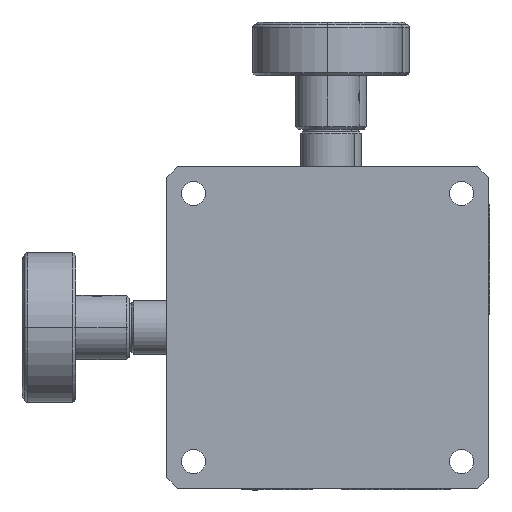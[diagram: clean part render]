
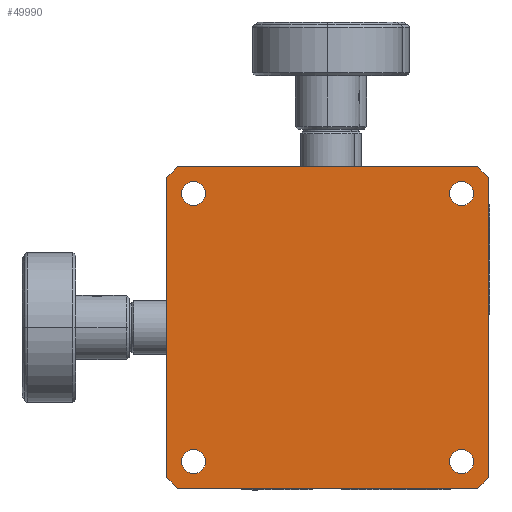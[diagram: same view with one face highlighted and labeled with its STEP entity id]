
A CAD part, front view. The second image highlights one B-rep face of the part: STEP entity #49990.
In plain terms, the highlighted planar face has unit normal (0, -1, 0).
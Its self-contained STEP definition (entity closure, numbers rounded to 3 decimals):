
#1990 = VERTEX_POINT ( 'NONE', #86994 ) ;
#2194 = VERTEX_POINT ( 'NONE', #49431 ) ;
#4048 = CIRCLE ( 'NONE', #19977, 2.25 ) ;
#4122 = AXIS2_PLACEMENT_3D ( 'NONE', #13533, #64603, #20899 ) ;
#4326 = CARTESIAN_POINT ( 'NONE',  ( -30., 0., -28. ) ) ;
#5201 = EDGE_LOOP ( 'NONE', ( #70478, #70572 ) ) ;
#7090 = CARTESIAN_POINT ( 'NONE',  ( -28., 0., -30. ) ) ;
#7735 = AXIS2_PLACEMENT_3D ( 'NONE', #69479, #25768, #76801 ) ;
#7941 = CARTESIAN_POINT ( 'NONE',  ( 25., 0., 25. ) ) ;
#8030 = CARTESIAN_POINT ( 'NONE',  ( -22.75, 0., -25. ) ) ;
#8427 = CARTESIAN_POINT ( 'NONE',  ( 30., 0., -28. ) ) ;
#8821 = DIRECTION ( 'NONE',  ( 0., 1., 0. ) ) ;
#8969 = VECTOR ( 'NONE', #78379, 1000. ) ;
#8997 = CARTESIAN_POINT ( 'NONE',  ( -30., 0., 30. ) ) ;
#9959 = VERTEX_POINT ( 'NONE', #43223 ) ;
#9996 = CARTESIAN_POINT ( 'NONE',  ( 22.75, 0., -25. ) ) ;
#12033 = CARTESIAN_POINT ( 'NONE',  ( -30., 0., 30. ) ) ;
#12552 = CARTESIAN_POINT ( 'NONE',  ( 25., 0., -25. ) ) ;
#13533 = CARTESIAN_POINT ( 'NONE',  ( -25., 0., -25. ) ) ;
#14146 = FACE_BOUND ( 'NONE', #25014, .T. ) ;
#14556 = CARTESIAN_POINT ( 'NONE',  ( 30., 0., 30. ) ) ;
#14868 = DIRECTION ( 'NONE',  ( 0.707, 0., -0.707 ) ) ;
#15183 = EDGE_CURVE ( 'NONE', #2194, #83386, #23319, .T. ) ;
#15314 = DIRECTION ( 'NONE',  ( 1., 0., 0. ) ) ;
#15667 = EDGE_CURVE ( 'NONE', #74284, #30855, #40330, .T. ) ;
#16582 = AXIS2_PLACEMENT_3D ( 'NONE', #52632, #8821, #59952 ) ;
#17852 = EDGE_LOOP ( 'NONE', ( #54463, #69411, #50611, #32051, #61676, #32156, #25498, #85764 ) ) ;
#18816 = EDGE_CURVE ( 'NONE', #75538, #94013, #28401, .T. ) ;
#19050 = EDGE_CURVE ( 'NONE', #9959, #60823, #53577, .T. ) ;
#19228 = CIRCLE ( 'NONE', #44285, 2.25 ) ;
#19521 = VECTOR ( 'NONE', #25317, 1000. ) ;
#19767 = ORIENTED_EDGE ( 'NONE', *, *, #58546, .T. ) ;
#19904 = DIRECTION ( 'NONE',  ( 1., 0., 0. ) ) ;
#19977 = AXIS2_PLACEMENT_3D ( 'NONE', #12552, #63638, #19904 ) ;
#20813 = CARTESIAN_POINT ( 'NONE',  ( 27.25, 0., -25. ) ) ;
#20868 = CIRCLE ( 'NONE', #4122, 2.25 ) ;
#20899 = DIRECTION ( 'NONE',  ( 1., 0., 0. ) ) ;
#21807 = LINE ( 'NONE', #47032, #19521 ) ;
#23091 = DIRECTION ( 'NONE',  ( -0.707, 0., 0.707 ) ) ;
#23319 = CIRCLE ( 'NONE', #93557, 2.25 ) ;
#23320 = ORIENTED_EDGE ( 'NONE', *, *, #79546, .T. ) ;
#23743 = PLANE ( 'NONE',  #29107 ) ;
#25014 = EDGE_LOOP ( 'NONE', ( #19767, #49616 ) ) ;
#25317 = DIRECTION ( 'NONE',  ( 0., 0., -1. ) ) ;
#25498 = ORIENTED_EDGE ( 'NONE', *, *, #38323, .F. ) ;
#25768 = DIRECTION ( 'NONE',  ( 0., 1., 0. ) ) ;
#25973 = CIRCLE ( 'NONE', #7735, 2.25 ) ;
#26261 = AXIS2_PLACEMENT_3D ( 'NONE', #30121, #29997, #29976 ) ;
#26329 = VECTOR ( 'NONE', #23091, 1000. ) ;
#26399 = CARTESIAN_POINT ( 'NONE',  ( 30., 0., 28. ) ) ;
#26954 = DIRECTION ( 'NONE',  ( 0., 1., 0. ) ) ;
#28401 = LINE ( 'NONE', #77714, #8969 ) ;
#29107 = AXIS2_PLACEMENT_3D ( 'NONE', #8997, #74777, #31020 ) ;
#29650 = EDGE_CURVE ( 'NONE', #52812, #76749, #33013, .T. ) ;
#29976 = DIRECTION ( 'NONE',  ( 1., 0., 0. ) ) ;
#29997 = DIRECTION ( 'NONE',  ( 0., 1., 0. ) ) ;
#30121 = CARTESIAN_POINT ( 'NONE',  ( -25., 0., 25. ) ) ;
#30727 = CARTESIAN_POINT ( 'NONE',  ( 27.25, 0., 25. ) ) ;
#30855 = VERTEX_POINT ( 'NONE', #91987 ) ;
#31020 = DIRECTION ( 'NONE',  ( -1., 0., 0. ) ) ;
#31086 = LINE ( 'NONE', #14556, #72230 ) ;
#31218 = FACE_BOUND ( 'NONE', #5201, .T. ) ;
#32051 = ORIENTED_EDGE ( 'NONE', *, *, #52023, .T. ) ;
#32156 = ORIENTED_EDGE ( 'NONE', *, *, #79085, .T. ) ;
#33013 = CIRCLE ( 'NONE', #16582, 2.25 ) ;
#34368 = VECTOR ( 'NONE', #14868, 1000. ) ;
#37922 = EDGE_CURVE ( 'NONE', #30855, #74284, #46983, .T. ) ;
#38323 = EDGE_CURVE ( 'NONE', #67675, #41313, #21807, .T. ) ;
#38540 = VECTOR ( 'NONE', #75990, 1000. ) ;
#38991 = CARTESIAN_POINT ( 'NONE',  ( -27.25, 0., -25. ) ) ;
#40330 = CIRCLE ( 'NONE', #26261, 2.25 ) ;
#41164 = LINE ( 'NONE', #66783, #26329 ) ;
#41313 = VERTEX_POINT ( 'NONE', #8427 ) ;
#43223 = CARTESIAN_POINT ( 'NONE',  ( -28., 0., 30. ) ) ;
#43934 = EDGE_LOOP ( 'NONE', ( #73200, #53243 ) ) ;
#44285 = AXIS2_PLACEMENT_3D ( 'NONE', #7941, #59053, #15314 ) ;
#46983 = CIRCLE ( 'NONE', #81155, 2.25 ) ;
#47032 = CARTESIAN_POINT ( 'NONE',  ( 30., 0., 30. ) ) ;
#48267 = VERTEX_POINT ( 'NONE', #4326 ) ;
#48658 = EDGE_CURVE ( 'NONE', #76749, #52812, #4048, .T. ) ;
#49001 = VECTOR ( 'NONE', #65160, 1000. ) ;
#49431 = CARTESIAN_POINT ( 'NONE',  ( 22.75, 0., 25. ) ) ;
#49616 = ORIENTED_EDGE ( 'NONE', *, *, #15183, .T. ) ;
#49875 = VECTOR ( 'NONE', #84834, 1000. ) ;
#49990 = ADVANCED_FACE ( 'NONE', ( #14146, #70099, #50724, #31218, #89534 ), #23743, .T. ) ;
#50611 = ORIENTED_EDGE ( 'NONE', *, *, #82911, .F. ) ;
#50724 = FACE_BOUND ( 'NONE', #70842, .T. ) ;
#50966 = ORIENTED_EDGE ( 'NONE', *, *, #51063, .T. ) ;
#51063 = EDGE_CURVE ( 'NONE', #72080, #78974, #20868, .T. ) ;
#52023 = EDGE_CURVE ( 'NONE', #48267, #94013, #53865, .T. ) ;
#52632 = CARTESIAN_POINT ( 'NONE',  ( 25., 0., -25. ) ) ;
#52812 = VERTEX_POINT ( 'NONE', #9996 ) ;
#53243 = ORIENTED_EDGE ( 'NONE', *, *, #37922, .T. ) ;
#53577 = LINE ( 'NONE', #65274, #49001 ) ;
#53865 = LINE ( 'NONE', #65910, #34368 ) ;
#54463 = ORIENTED_EDGE ( 'NONE', *, *, #62803, .F. ) ;
#55723 = DIRECTION ( 'NONE',  ( 1., 0., 0. ) ) ;
#55795 = DIRECTION ( 'NONE',  ( 0., 1., 0. ) ) ;
#55908 = CARTESIAN_POINT ( 'NONE',  ( 25., 0., 25. ) ) ;
#58546 = EDGE_CURVE ( 'NONE', #83386, #2194, #19228, .T. ) ;
#59053 = DIRECTION ( 'NONE',  ( 0., 1., 0. ) ) ;
#59952 = DIRECTION ( 'NONE',  ( 1., 0., 0. ) ) ;
#60823 = VERTEX_POINT ( 'NONE', #63190 ) ;
#61340 = CARTESIAN_POINT ( 'NONE',  ( 29., 0., -29. ) ) ;
#61676 = ORIENTED_EDGE ( 'NONE', *, *, #18816, .F. ) ;
#62803 = EDGE_CURVE ( 'NONE', #9959, #1990, #31086, .T. ) ;
#63190 = CARTESIAN_POINT ( 'NONE',  ( -30., 0., 28. ) ) ;
#63638 = DIRECTION ( 'NONE',  ( 0., 1., 0. ) ) ;
#64603 = DIRECTION ( 'NONE',  ( 0., 1., 0. ) ) ;
#65160 = DIRECTION ( 'NONE',  ( -0.707, 0., -0.707 ) ) ;
#65274 = CARTESIAN_POINT ( 'NONE',  ( -29., 0., 29. ) ) ;
#65601 = DIRECTION ( 'NONE',  ( 1., 0., 0. ) ) ;
#65910 = CARTESIAN_POINT ( 'NONE',  ( -59., 0., 1. ) ) ;
#66783 = CARTESIAN_POINT ( 'NONE',  ( -1., 0., 59. ) ) ;
#67675 = VERTEX_POINT ( 'NONE', #26399 ) ;
#69411 = ORIENTED_EDGE ( 'NONE', *, *, #19050, .T. ) ;
#69479 = CARTESIAN_POINT ( 'NONE',  ( -25., 0., -25. ) ) ;
#70099 = FACE_BOUND ( 'NONE', #43934, .T. ) ;
#70478 = ORIENTED_EDGE ( 'NONE', *, *, #48658, .T. ) ;
#70572 = ORIENTED_EDGE ( 'NONE', *, *, #29650, .T. ) ;
#70679 = CARTESIAN_POINT ( 'NONE',  ( -25., 0., 25. ) ) ;
#70842 = EDGE_LOOP ( 'NONE', ( #23320, #50966 ) ) ;
#72080 = VERTEX_POINT ( 'NONE', #38991 ) ;
#72230 = VECTOR ( 'NONE', #65601, 1000. ) ;
#73190 = CARTESIAN_POINT ( 'NONE',  ( -22.75, 0., 25. ) ) ;
#73200 = ORIENTED_EDGE ( 'NONE', *, *, #15667, .T. ) ;
#74284 = VERTEX_POINT ( 'NONE', #73190 ) ;
#74777 = DIRECTION ( 'NONE',  ( 0., -1., 0. ) ) ;
#75538 = VERTEX_POINT ( 'NONE', #80545 ) ;
#75990 = DIRECTION ( 'NONE',  ( 0.707, 0., 0.707 ) ) ;
#76749 = VERTEX_POINT ( 'NONE', #20813 ) ;
#76801 = DIRECTION ( 'NONE',  ( 1., 0., 0. ) ) ;
#77417 = LINE ( 'NONE', #61340, #38540 ) ;
#77714 = CARTESIAN_POINT ( 'NONE',  ( 30., 0., -30. ) ) ;
#78014 = DIRECTION ( 'NONE',  ( 1., 0., 0. ) ) ;
#78379 = DIRECTION ( 'NONE',  ( -1., 0., 0. ) ) ;
#78974 = VERTEX_POINT ( 'NONE', #8030 ) ;
#79085 = EDGE_CURVE ( 'NONE', #75538, #41313, #77417, .T. ) ;
#79546 = EDGE_CURVE ( 'NONE', #78974, #72080, #25973, .T. ) ;
#80545 = CARTESIAN_POINT ( 'NONE',  ( 28., 0., -30. ) ) ;
#81155 = AXIS2_PLACEMENT_3D ( 'NONE', #70679, #26954, #78014 ) ;
#82911 = EDGE_CURVE ( 'NONE', #48267, #60823, #86419, .T. ) ;
#83386 = VERTEX_POINT ( 'NONE', #30727 ) ;
#84834 = DIRECTION ( 'NONE',  ( 0., 0., 1. ) ) ;
#85764 = ORIENTED_EDGE ( 'NONE', *, *, #92554, .T. ) ;
#86419 = LINE ( 'NONE', #12033, #49875 ) ;
#86994 = CARTESIAN_POINT ( 'NONE',  ( 28., 0., 30. ) ) ;
#89534 = FACE_OUTER_BOUND ( 'NONE', #17852, .T. ) ;
#91987 = CARTESIAN_POINT ( 'NONE',  ( -27.25, 0., 25. ) ) ;
#92554 = EDGE_CURVE ( 'NONE', #67675, #1990, #41164, .T. ) ;
#93557 = AXIS2_PLACEMENT_3D ( 'NONE', #55908, #55795, #55723 ) ;
#94013 = VERTEX_POINT ( 'NONE', #7090 ) ;
